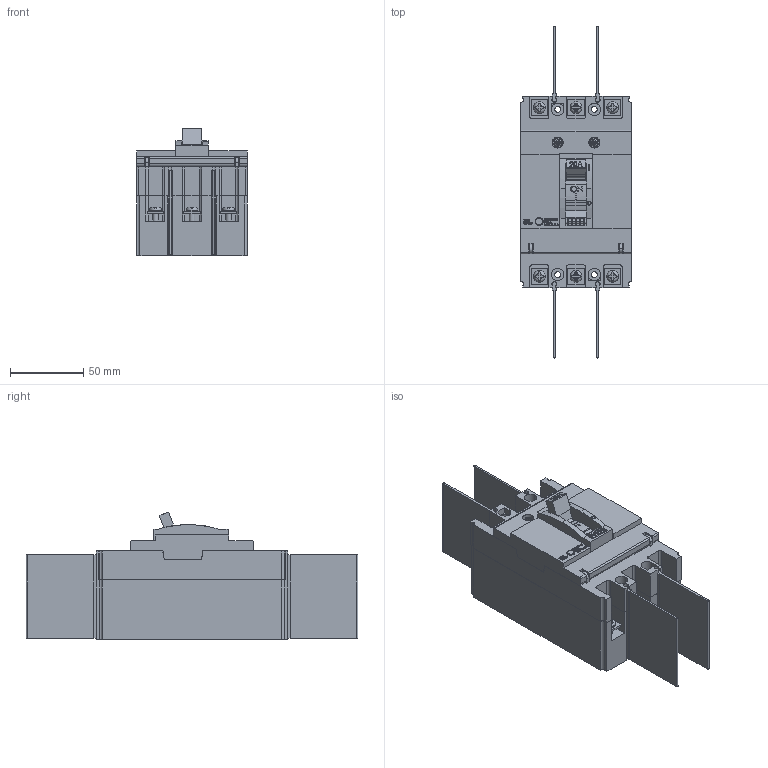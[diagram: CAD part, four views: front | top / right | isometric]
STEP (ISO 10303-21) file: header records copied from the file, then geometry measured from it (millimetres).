
FILE_DESCRIPTION (( 'STEP AP203' ), '1' );
FILE_NAME ('DCM50S3.STEP', '2018-07-12T17:49:20', ( '' ), ( '' ), 'SwSTEP 2.0', 'SolidWorks 2012', '' );
FILE_SCHEMA (( 'CONFIG_CONTROL_DESIGN' ));
Length unit declared in the file: millimetre
Products named in the file (1): DCM50S3
Bounding box: 75.5 x 227 x 87.13 mm (x, y, z)
Volume: 622832.7 mm3; surface area: 108741.1 mm2
Topology: 5 solids, 5 shells, 1143 faces, 3075 edges, 2038 vertices
Faces by surface type: plane 780, bspline 174, cylinder 171, torus 18
Entity records: 47404 total; most frequent: CARTESIAN_POINT 19671, ORIENTED_EDGE 6150, DIRECTION 4939, EDGE_CURVE 3075, LINE 2187, VECTOR 2187, VERTEX_POINT 2038, AXIS2_PLACEMENT_3D 1376
